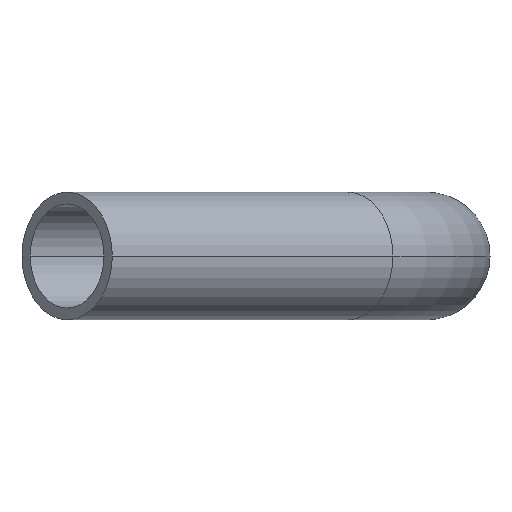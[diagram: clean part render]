
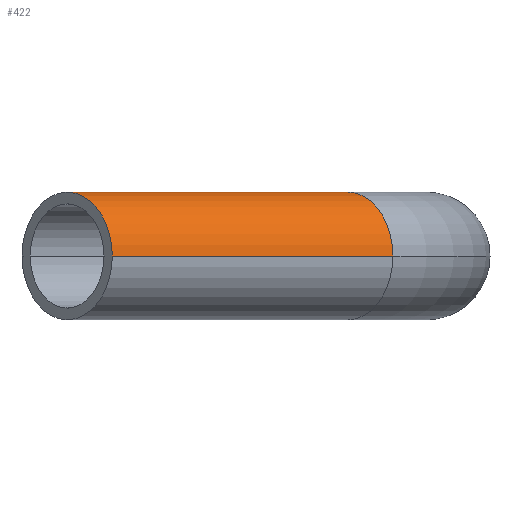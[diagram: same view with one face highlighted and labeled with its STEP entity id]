
A CAD part, left-side view. The second image highlights one B-rep face of the part: STEP entity #422.
In plain terms, the highlighted cylindrical face has radius 45 mm (diameter 90 mm), a partial arc.
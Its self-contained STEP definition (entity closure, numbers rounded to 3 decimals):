
#1 = DIRECTION ( 'NONE',  ( -0.707, 0.707, 0. ) ) ;
#2 = DIRECTION ( 'NONE',  ( -0.707, -0.707, 0. ) ) ;
#58 = AXIS2_PLACEMENT_3D ( 'NONE', #366, #370, #128 ) ;
#59 = CIRCLE ( 'NONE', #58, 45. ) ;
#73 = EDGE_CURVE ( 'NONE', #82, #78, #228, .T. ) ;
#78 = VERTEX_POINT ( 'NONE', #326 ) ;
#82 = VERTEX_POINT ( 'NONE', #278 ) ;
#83 = VERTEX_POINT ( 'NONE', #277 ) ;
#125 = EDGE_LOOP ( 'NONE', ( #325, #331, #332, #333 ) ) ;
#128 = DIRECTION ( 'NONE',  ( 0., 0., -1. ) ) ;
#179 = CYLINDRICAL_SURFACE ( 'NONE', #197, 45. ) ;
#182 = FACE_OUTER_BOUND ( 'NONE', #125, .T. ) ;
#189 = CIRCLE ( 'NONE', #212, 45. ) ;
#196 = VECTOR ( 'NONE', #292, 1000. ) ;
#197 = AXIS2_PLACEMENT_3D ( 'NONE', #267, #1, #2 ) ;
#211 = VECTOR ( 'NONE', #230, 1000. ) ;
#212 = AXIS2_PLACEMENT_3D ( 'NONE', #350, #351, #352 ) ;
#221 = VERTEX_POINT ( 'NONE', #283 ) ;
#227 = CARTESIAN_POINT ( 'NONE',  ( -392.177, 23.537, 0. ) ) ;
#228 = LINE ( 'NONE', #227, #211 ) ;
#230 = DIRECTION ( 'NONE',  ( -0.707, 0.707, 0. ) ) ;
#267 = CARTESIAN_POINT ( 'NONE',  ( -360.357, 55.357, 0. ) ) ;
#277 = CARTESIAN_POINT ( 'NONE',  ( -328.537, 87.177, 0. ) ) ;
#278 = CARTESIAN_POINT ( 'NONE',  ( -392.177, 23.537, 0. ) ) ;
#282 = LINE ( 'NONE', #289, #196 ) ;
#283 = CARTESIAN_POINT ( 'NONE',  ( -526.36, 285., 0. ) ) ;
#289 = CARTESIAN_POINT ( 'NONE',  ( -328.537, 87.177, 0. ) ) ;
#292 = DIRECTION ( 'NONE',  ( -0.707, 0.707, 0. ) ) ;
#325 = ORIENTED_EDGE ( 'NONE', *, *, #413, .F. ) ;
#326 = CARTESIAN_POINT ( 'NONE',  ( -590., 221.36, 0. ) ) ;
#331 = ORIENTED_EDGE ( 'NONE', *, *, #403, .T. ) ;
#332 = ORIENTED_EDGE ( 'NONE', *, *, #447, .T. ) ;
#333 = ORIENTED_EDGE ( 'NONE', *, *, #73, .F. ) ;
#350 = CARTESIAN_POINT ( 'NONE',  ( -360.357, 55.357, 0. ) ) ;
#351 = DIRECTION ( 'NONE',  ( 0.707, -0.707, 0. ) ) ;
#352 = DIRECTION ( 'NONE',  ( 0., 0., -1. ) ) ;
#366 = CARTESIAN_POINT ( 'NONE',  ( -558.18, 253.18, 0. ) ) ;
#370 = DIRECTION ( 'NONE',  ( 0.707, -0.707, 0. ) ) ;
#403 = EDGE_CURVE ( 'NONE', #83, #221, #282, .T. ) ;
#413 = EDGE_CURVE ( 'NONE', #83, #82, #189, .T. ) ;
#422 = ADVANCED_FACE ( 'NONE', ( #182 ), #179, .T. ) ;
#447 = EDGE_CURVE ( 'NONE', #221, #78, #59, .T. ) ;
